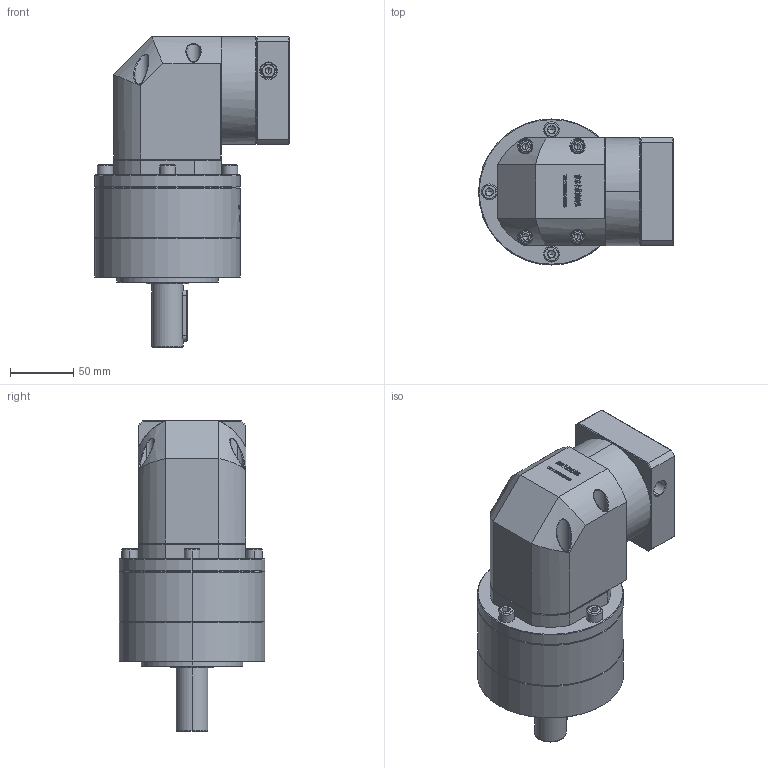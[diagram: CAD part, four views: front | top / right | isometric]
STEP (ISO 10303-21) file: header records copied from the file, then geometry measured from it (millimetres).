
FILE_DESCRIPTION (( 'STEP AP214' ), '1' );
FILE_NAME ('ZER120A-D25-L2-19-80-100-M6.step', '2023-03-14T10:25:22', ( '' ), ( '' ), 'SwSTEP 2.0', 'SolidWorks 2016', '' );
FILE_SCHEMA (( 'AUTOMOTIVE_DESIGN' ));
Length unit declared in the file: millimetre
Products named in the file (1): ZER120A-D25-L2-19-80-100-M6
Bounding box: 153.6 x 115 x 245 mm (x, y, z)
Volume: 1797774.2 mm3; surface area: 166142.4 mm2
Topology: 6 solids, 6 shells, 3088 faces, 8221 edges, 5280 vertices
Faces by surface type: plane 1555, bspline 637, cylinder 553, cone 329, torus 14
Entity records: 175063 total; most frequent: CARTESIAN_POINT 71077, ORIENTED_EDGE 16334, DIRECTION 11819, EDGE_CURVE 8167, VERTEX_POINT 5280, LINE 4977, VECTOR 4977, AXIS2_PLACEMENT_3D 3421
